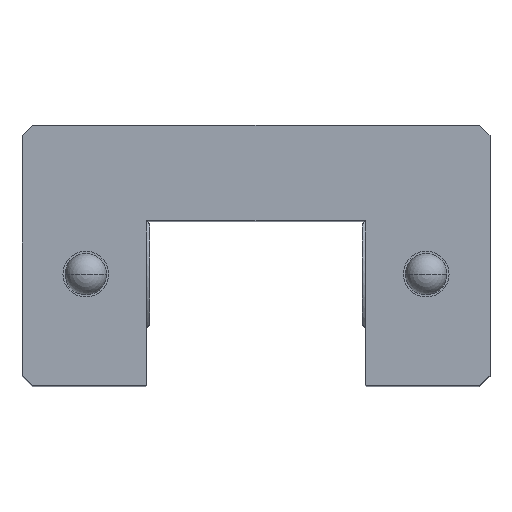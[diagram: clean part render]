
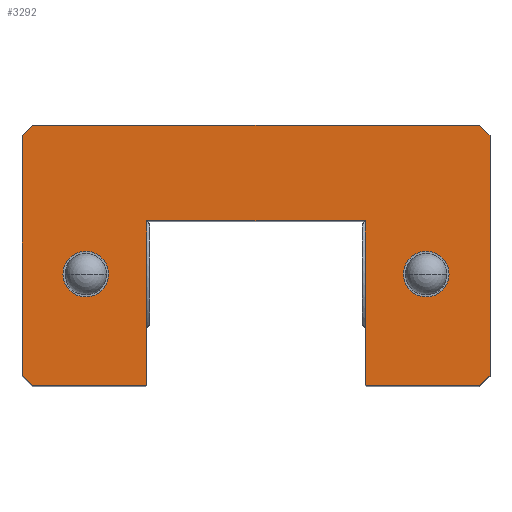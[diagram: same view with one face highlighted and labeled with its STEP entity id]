
A CAD part, top view. The second image highlights one B-rep face of the part: STEP entity #3292.
In plain terms, the highlighted planar face has unit normal (0, 0, 1).
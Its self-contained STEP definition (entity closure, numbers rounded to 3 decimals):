
#1646 = EDGE_CURVE( '', #3838, #1974, #4404, .T. );
#1678 = EDGE_CURVE( '', #3674, #2772, #4440, .T. );
#1728 = VERTEX_POINT( '', #4501 );
#1902 = EDGE_CURVE( '', #3040, #1982, #4700, .T. );
#1974 = VERTEX_POINT( '', #4777 );
#1982 = VERTEX_POINT( '', #4786 );
#2000 = VERTEX_POINT( '', #4808 );
#2252 = EDGE_CURVE( '', #3252, #2628, #5093, .T. );
#2424 = EDGE_CURVE( '', #3922, #2000, #5283, .T. );
#2462 = EDGE_CURVE( '', #1974, #2796, #5326, .T. );
#2612 = VERTEX_POINT( '', #5496 );
#2628 = VERTEX_POINT( '', #5522 );
#2772 = VERTEX_POINT( '', #5686 );
#2796 = VERTEX_POINT( '', #5712 );
#2820 = VERTEX_POINT( '', #5743 );
#2834 = EDGE_CURVE( '', #2772, #3538, #5758, .T. );
#2864 = EDGE_CURVE( '', #2628, #3252, #5791, .T. );
#2868 = VERTEX_POINT( '', #5796 );
#2894 = EDGE_CURVE( '', #2820, #3674, #5827, .T. );
#2990 = EDGE_CURVE( '', #2796, #3040, #5941, .T. );
#3040 = VERTEX_POINT( '', #6007 );
#3108 = EDGE_CURVE( '', #3538, #3838, #6075, .T. );
#3166 = EDGE_CURVE( '', #3912, #2820, #6142, .T. );
#3252 = VERTEX_POINT( '', #6239 );
#3292 = ADVANCED_FACE( '', ( #6284, #6285, #6286 ), #6287, .T. );
#3298 = EDGE_CURVE( '', #4100, #3922, #6293, .T. );
#3400 = EDGE_CURVE( '', #2868, #1728, #6404, .T. );
#3538 = VERTEX_POINT( '', #6552 );
#3554 = EDGE_CURVE( '', #2000, #2612, #6568, .T. );
#3628 = EDGE_CURVE( '', #1728, #2868, #6648, .T. );
#3674 = VERTEX_POINT( '', #6698 );
#3744 = EDGE_CURVE( '', #2612, #3912, #6775, .T. );
#3818 = EDGE_CURVE( '', #1982, #4100, #6859, .T. );
#3838 = VERTEX_POINT( '', #6880 );
#3912 = VERTEX_POINT( '', #6957 );
#3922 = VERTEX_POINT( '', #6967 );
#4100 = VERTEX_POINT( '', #7165 );
#4404 = LINE( '', #7571, #7572 );
#4440 = LINE( '', #7618, #7619 );
#4501 = CARTESIAN_POINT( '', ( 16., 16.15, 0. ) );
#4700 = LINE( '', #7961, #7962 );
#4777 = CARTESIAN_POINT( '', ( -22., 4.5, 0. ) );
#4786 = CARTESIAN_POINT( '', ( -10.25, 3.6, 0. ) );
#4808 = CARTESIAN_POINT( '', ( 10.25, 3.6, 0. ) );
#5093 = CIRCLE( '', #8489, 2.15 );
#5283 = LINE( '', #8755, #8756 );
#5326 = LINE( '', #8818, #8819 );
#5496 = CARTESIAN_POINT( '', ( 10.35, 3.5, 0. ) );
#5522 = CARTESIAN_POINT( '', ( -16., 11.85, 0. ) );
#5686 = CARTESIAN_POINT( '', ( 21., 28., 0. ) );
#5712 = CARTESIAN_POINT( '', ( -21., 3.5, 0. ) );
#5743 = CARTESIAN_POINT( '', ( 22., 4.5, 0. ) );
#5758 = LINE( '', #9373, #9374 );
#5791 = CIRCLE( '', #9419, 2.15 );
#5796 = CARTESIAN_POINT( '', ( 16., 11.85, 0. ) );
#5827 = LINE( '', #9466, #9467 );
#5941 = LINE( '', #9614, #9615 );
#6007 = CARTESIAN_POINT( '', ( -10.35, 3.5, 0. ) );
#6075 = LINE( '', #9796, #9797 );
#6142 = LINE( '', #9883, #9884 );
#6239 = CARTESIAN_POINT( '', ( -16., 16.15, 0. ) );
#6284 = FACE_BOUND( '', #10083, .T. );
#6285 = FACE_BOUND( '', #10084, .T. );
#6286 = FACE_OUTER_BOUND( '', #10085, .T. );
#6287 = PLANE( '', #10086 );
#6293 = LINE( '', #10095, #10096 );
#6404 = CIRCLE( '', #10265, 2.15 );
#6552 = CARTESIAN_POINT( '', ( -21., 28., 0. ) );
#6568 = LINE( '', #10499, #10500 );
#6648 = CIRCLE( '', #10613, 2.15 );
#6698 = CARTESIAN_POINT( '', ( 22., 27., 0. ) );
#6775 = LINE( '', #10781, #10782 );
#6859 = LINE( '', #10902, #10903 );
#6880 = CARTESIAN_POINT( '', ( -22., 27., 0. ) );
#6957 = CARTESIAN_POINT( '', ( 21., 3.5, 0. ) );
#6967 = CARTESIAN_POINT( '', ( 10.25, 19., 0. ) );
#7165 = CARTESIAN_POINT( '', ( -10.25, 19., 0. ) );
#7571 = CARTESIAN_POINT( '', ( -22., 27., 0. ) );
#7572 = VECTOR( '', #11590, 1. );
#7618 = CARTESIAN_POINT( '', ( 22., 27., 0. ) );
#7619 = VECTOR( '', #11633, 1. );
#7961 = CARTESIAN_POINT( '', ( -10.35, 3.5, 0. ) );
#7962 = VECTOR( '', #11990, 1. );
#8489 = AXIS2_PLACEMENT_3D( '', #12462, #12463, #12464 );
#8755 = CARTESIAN_POINT( '', ( 10.25, 19., 0. ) );
#8756 = VECTOR( '', #12657, 1. );
#8818 = CARTESIAN_POINT( '', ( -22., 4.5, 0. ) );
#8819 = VECTOR( '', #12717, 1. );
#9373 = CARTESIAN_POINT( '', ( 21., 28., 0. ) );
#9374 = VECTOR( '', #13232, 1. );
#9419 = AXIS2_PLACEMENT_3D( '', #13275, #13276, #13277 );
#9466 = CARTESIAN_POINT( '', ( 22., 4.5, 0. ) );
#9467 = VECTOR( '', #13326, 1. );
#9614 = CARTESIAN_POINT( '', ( -21., 3.5, 0. ) );
#9615 = VECTOR( '', #13496, 1. );
#9796 = CARTESIAN_POINT( '', ( -21., 28., 0. ) );
#9797 = VECTOR( '', #13642, 1. );
#9883 = CARTESIAN_POINT( '', ( 21., 3.5, 0. ) );
#9884 = VECTOR( '', #13735, 1. );
#10083 = EDGE_LOOP( '', ( #13910, #13911 ) );
#10084 = EDGE_LOOP( '', ( #13912, #13913 ) );
#10085 = EDGE_LOOP( '', ( #13914, #13915, #13916, #13917, #13918, #13919, #13920, #13921, #13922, #13923, #13924, #13925, #13926, #13927 ) );
#10086 = AXIS2_PLACEMENT_3D( '', #13928, #13929, #13930 );
#10095 = CARTESIAN_POINT( '', ( -10.25, 19., 0. ) );
#10096 = VECTOR( '', #13932, 1. );
#10265 = AXIS2_PLACEMENT_3D( '', #14038, #14039, #14040 );
#10499 = CARTESIAN_POINT( '', ( 10.25, 3.6, 0. ) );
#10500 = VECTOR( '', #14191, 1. );
#10613 = AXIS2_PLACEMENT_3D( '', #14279, #14280, #14281 );
#10781 = CARTESIAN_POINT( '', ( 10.35, 3.5, 0. ) );
#10782 = VECTOR( '', #14407, 1. );
#10902 = CARTESIAN_POINT( '', ( -10.25, 3.6, 0. ) );
#10903 = VECTOR( '', #14512, 1. );
#11590 = DIRECTION( '', ( 0., -1., 0. ) );
#11633 = DIRECTION( '', ( -0.707, 0.707, 0. ) );
#11990 = DIRECTION( '', ( 0.707, 0.707, 0. ) );
#12462 = CARTESIAN_POINT( '', ( -16., 14., 0. ) );
#12463 = DIRECTION( '', ( 0., 0., -1. ) );
#12464 = DIRECTION( '', ( 0., -1., 0. ) );
#12657 = DIRECTION( '', ( 0., -1., 0. ) );
#12717 = DIRECTION( '', ( 0.707, -0.707, 0. ) );
#13232 = DIRECTION( '', ( -1., 0., 0. ) );
#13275 = CARTESIAN_POINT( '', ( -16., 14., 0. ) );
#13276 = DIRECTION( '', ( 0., 0., -1. ) );
#13277 = DIRECTION( '', ( 0., -1., 0. ) );
#13326 = DIRECTION( '', ( 0., 1., 0. ) );
#13496 = DIRECTION( '', ( 1., 0., 0. ) );
#13642 = DIRECTION( '', ( -0.707, -0.707, 0. ) );
#13735 = DIRECTION( '', ( 0.707, 0.707, 0. ) );
#13910 = ORIENTED_EDGE( '', *, *, #3628, .T. );
#13911 = ORIENTED_EDGE( '', *, *, #3400, .T. );
#13912 = ORIENTED_EDGE( '', *, *, #2252, .T. );
#13913 = ORIENTED_EDGE( '', *, *, #2864, .T. );
#13914 = ORIENTED_EDGE( '', *, *, #1646, .T. );
#13915 = ORIENTED_EDGE( '', *, *, #2462, .T. );
#13916 = ORIENTED_EDGE( '', *, *, #2990, .T. );
#13917 = ORIENTED_EDGE( '', *, *, #1902, .T. );
#13918 = ORIENTED_EDGE( '', *, *, #3818, .T. );
#13919 = ORIENTED_EDGE( '', *, *, #3298, .T. );
#13920 = ORIENTED_EDGE( '', *, *, #2424, .T. );
#13921 = ORIENTED_EDGE( '', *, *, #3554, .T. );
#13922 = ORIENTED_EDGE( '', *, *, #3744, .T. );
#13923 = ORIENTED_EDGE( '', *, *, #3166, .T. );
#13924 = ORIENTED_EDGE( '', *, *, #2894, .T. );
#13925 = ORIENTED_EDGE( '', *, *, #1678, .T. );
#13926 = ORIENTED_EDGE( '', *, *, #2834, .T. );
#13927 = ORIENTED_EDGE( '', *, *, #3108, .T. );
#13928 = CARTESIAN_POINT( '', ( 0., 0., 0. ) );
#13929 = DIRECTION( '', ( 0., 0., 1. ) );
#13930 = DIRECTION( '', ( 1., 0., 0. ) );
#13932 = DIRECTION( '', ( 1., 0., 0. ) );
#14038 = CARTESIAN_POINT( '', ( 16., 14., 0. ) );
#14039 = DIRECTION( '', ( 0., 0., -1. ) );
#14040 = DIRECTION( '', ( 0., -1., 0. ) );
#14191 = DIRECTION( '', ( 0.707, -0.707, 0. ) );
#14279 = CARTESIAN_POINT( '', ( 16., 14., 0. ) );
#14280 = DIRECTION( '', ( 0., 0., -1. ) );
#14281 = DIRECTION( '', ( 0., -1., 0. ) );
#14407 = DIRECTION( '', ( 1., 0., 0. ) );
#14512 = DIRECTION( '', ( 0., 1., 0. ) );
